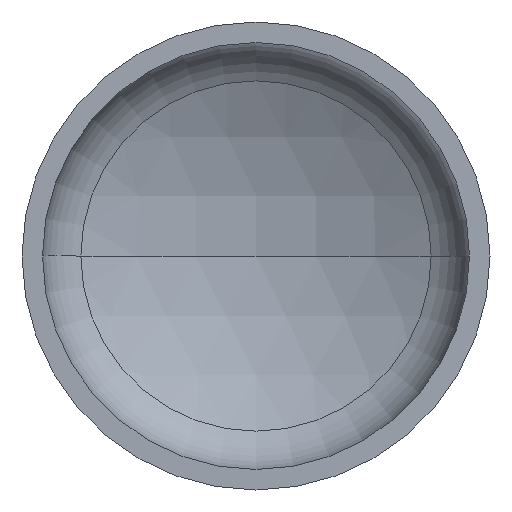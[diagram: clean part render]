
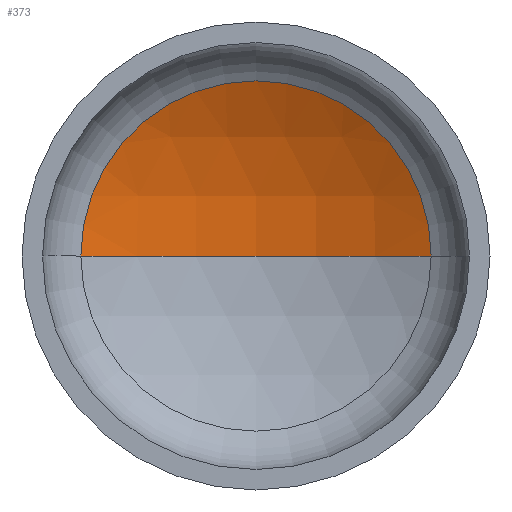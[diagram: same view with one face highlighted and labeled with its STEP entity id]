
A CAD part, front view. The second image highlights one B-rep face of the part: STEP entity #373.
In plain terms, the highlighted spherical face has radius 2080 mm.
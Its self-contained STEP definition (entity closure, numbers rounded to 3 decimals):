
#19 = EDGE_LOOP ( 'NONE', ( #100, #47, #40 ) ) ;
#20 = AXIS2_PLACEMENT_3D ( 'NONE', #220, #391, #395 ) ;
#29 = AXIS2_PLACEMENT_3D ( 'NONE', #142, #165, #162 ) ;
#32 = VERTEX_POINT ( 'NONE', #268 ) ;
#40 = ORIENTED_EDGE ( 'NONE', *, *, #345, .T. ) ;
#47 = ORIENTED_EDGE ( 'NONE', *, *, #352, .T. ) ;
#97 = VERTEX_POINT ( 'NONE', #322 ) ;
#100 = ORIENTED_EDGE ( 'NONE', *, *, #387, .F. ) ;
#126 = DIRECTION ( 'NONE',  ( 1., 0., 0. ) ) ;
#127 = VERTEX_POINT ( 'NONE', #309 ) ;
#142 = CARTESIAN_POINT ( 'NONE',  ( 0., 428.522, 0. ) ) ;
#162 = DIRECTION ( 'NONE',  ( 1., 0., 0. ) ) ;
#165 = DIRECTION ( 'NONE',  ( 0., -1., 0. ) ) ;
#171 = CARTESIAN_POINT ( 'NONE',  ( 0., -1409.791, 0. ) ) ;
#185 = CARTESIAN_POINT ( 'NONE',  ( 0., -1409.791, 0. ) ) ;
#186 = CIRCLE ( 'NONE', #245, 2080. ) ;
#190 = FACE_OUTER_BOUND ( 'NONE', #19, .T. ) ;
#209 = CIRCLE ( 'NONE', #29, 973.143 ) ;
#210 = AXIS2_PLACEMENT_3D ( 'NONE', #171, #275, #227 ) ;
#220 = CARTESIAN_POINT ( 'NONE',  ( 0., -1409.791, 0. ) ) ;
#227 = DIRECTION ( 'NONE',  ( -1., 0., 0. ) ) ;
#245 = AXIS2_PLACEMENT_3D ( 'NONE', #185, #273, #126 ) ;
#268 = CARTESIAN_POINT ( 'NONE',  ( 973.143, 428.522, 0. ) ) ;
#273 = DIRECTION ( 'NONE',  ( 0., 0., 1. ) ) ;
#275 = DIRECTION ( 'NONE',  ( 0., 0., -1. ) ) ;
#305 = SPHERICAL_SURFACE ( 'NONE', #210, 2080. ) ;
#309 = CARTESIAN_POINT ( 'NONE',  ( -973.143, 428.522, 0. ) ) ;
#322 = CARTESIAN_POINT ( 'NONE',  ( 0., 670.209, 0. ) ) ;
#345 = EDGE_CURVE ( 'NONE', #32, #127, #209, .T. ) ;
#352 = EDGE_CURVE ( 'NONE', #97, #32, #384, .T. ) ;
#373 = ADVANCED_FACE ( 'NONE', ( #190 ), #305, .F. ) ;
#384 = CIRCLE ( 'NONE', #20, 2080. ) ;
#387 = EDGE_CURVE ( 'NONE', #97, #127, #186, .T. ) ;
#391 = DIRECTION ( 'NONE',  ( 0., 0., -1. ) ) ;
#395 = DIRECTION ( 'NONE',  ( -1., 0., 0. ) ) ;
